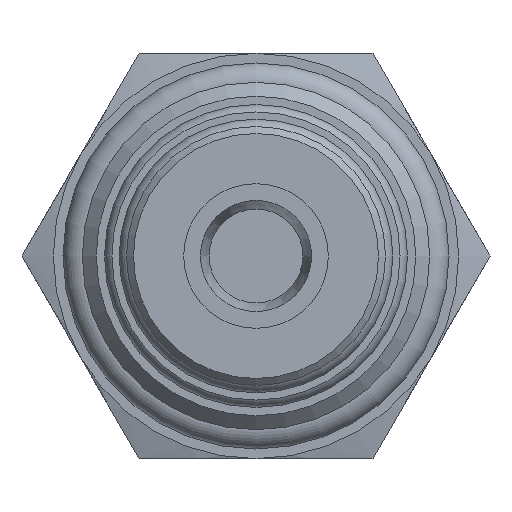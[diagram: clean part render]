
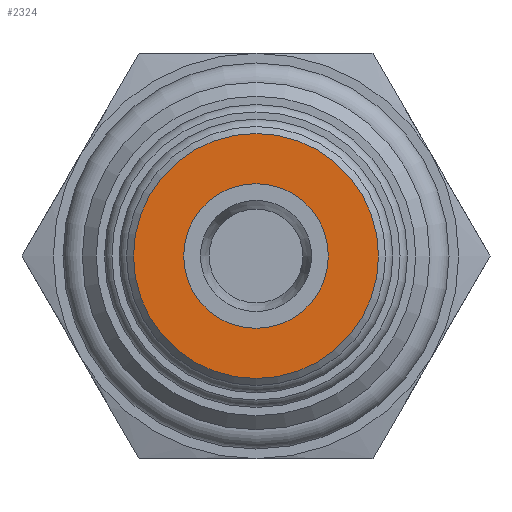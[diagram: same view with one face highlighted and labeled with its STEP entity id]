
A CAD part, left-side view. The second image highlights one B-rep face of the part: STEP entity #2324.
In plain terms, the highlighted planar face has unit normal (-1, 0, 0).
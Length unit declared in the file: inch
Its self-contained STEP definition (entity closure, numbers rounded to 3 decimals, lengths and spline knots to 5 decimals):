
#2290=CARTESIAN_POINT('',(4.50875,4.18689,0.0));
#2291=VERTEX_POINT('',#2290);
#2292=CARTESIAN_POINT('',(4.50875,4.03069,0.0));
#2293=DIRECTION('',(1.0,0.0,0.0));
#2294=DIRECTION('',(0.0,1.0,0.0));
#2295=AXIS2_PLACEMENT_3D('',#2292,#2293,#2294);
#2296=CIRCLE('',#2295,0.1562);
#2297=EDGE_CURVE('',#2291,#2291,#2296,.T.);
#2305=CARTESIAN_POINT('',(4.50875,4.24104,0.0));
#2306=DIRECTION('',(-1.0,0.0,0.0));
#2307=DIRECTION('',(0.0,0.0,1.0));
#2308=AXIS2_PLACEMENT_3D('',#2305,#2306,#2307);
#2309=PLANE('',#2308);
#2310=CARTESIAN_POINT('',(4.50875,4.29519,0.0));
#2311=VERTEX_POINT('',#2310);
#2312=CARTESIAN_POINT('',(4.50875,4.03069,0.0));
#2313=DIRECTION('',(1.0,0.0,0.0));
#2314=DIRECTION('',(0.0,1.0,0.0));
#2315=AXIS2_PLACEMENT_3D('',#2312,#2313,#2314);
#2316=CIRCLE('',#2315,0.2645);
#2317=EDGE_CURVE('',#2311,#2311,#2316,.T.);
#2318=ORIENTED_EDGE('',*,*,#2317,.F.);
#2319=EDGE_LOOP('',(#2318));
#2320=FACE_OUTER_BOUND('',#2319,.T.);
#2321=ORIENTED_EDGE('',*,*,#2297,.T.);
#2322=EDGE_LOOP('',(#2321));
#2323=FACE_BOUND('',#2322,.T.);
#2324=ADVANCED_FACE('',(#2320,#2323),#2309,.T.);
